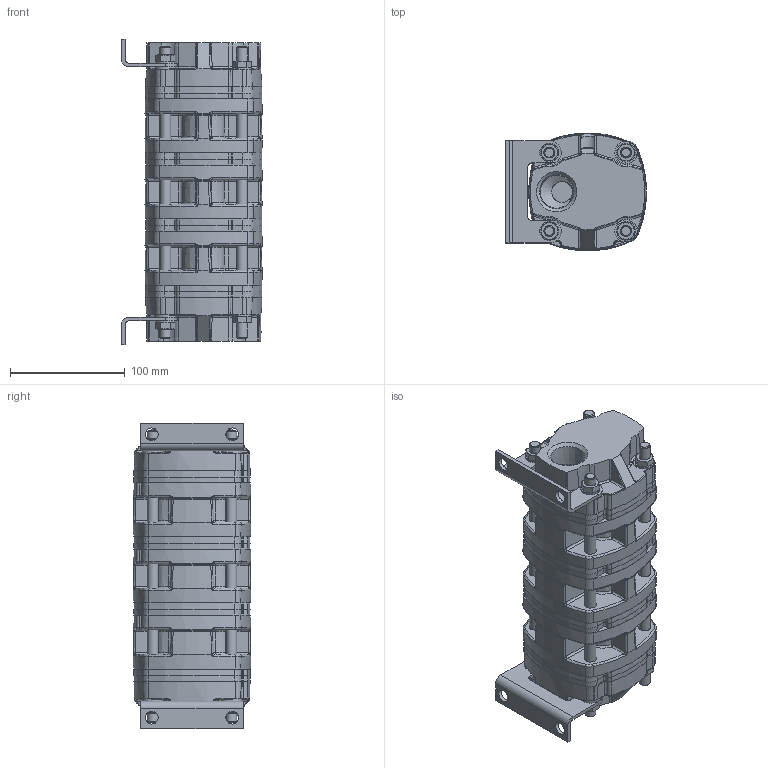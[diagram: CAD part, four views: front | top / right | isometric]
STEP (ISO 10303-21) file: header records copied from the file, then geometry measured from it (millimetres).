
FILE_DESCRIPTION(/* description */ (''),/* implementation_level */ '2;1');
FILE_NAME(/* name */ 'C:\Users\kevin\Desktop\RELATED\P21 4 SECTION.stp',/* time_stamp */ '2014-03-31T14:31:28-05:00',/* author */ ('kevin'),/* organization */ (''),/* preprocessor_version */ 'ST-DEVELOPER v15.2',/* originating_system */ 'Autodesk Inventor 2014',/* authorisation */ '');
FILE_SCHEMA (('AUTOMOTIVE_DESIGN { 1 0 10303 214 3 1 1 }'));
Products named in the file (1): 304040404_Shrinkwrap_1
Bounding box: 122.6 x 102.36 x 265.54 mm (x, y, z)
Volume: 1534294.3 mm3; surface area: 276834.1 mm2
Topology: 1 solids, 1 shells, 1635 faces, 4093 edges, 2417 vertices
Faces by surface type: plane 417, cone 390, cylinder 285, bspline 258, torus 202, sphere 83
Full cylindrical faces by diameter (mm): 3.962 x12, 5.537 x2, 6.909 x2, 9.525 x12, 10.312 x34, 11.1 x4, 16.498 x8, 18.237 x4, 18.263 x6, 18.644 x4, 19.837 x4, 20.625 x6, 28.575 x2
Entity records: 55506 total; most frequent: CARTESIAN_POINT 19049, DIRECTION 7528, ORIENTED_EDGE 7402, EDGE_CURVE 3701, AXIS2_PLACEMENT_3D 3305, VERTEX_POINT 2249, EDGE_LOOP 1878, CIRCLE 1852
